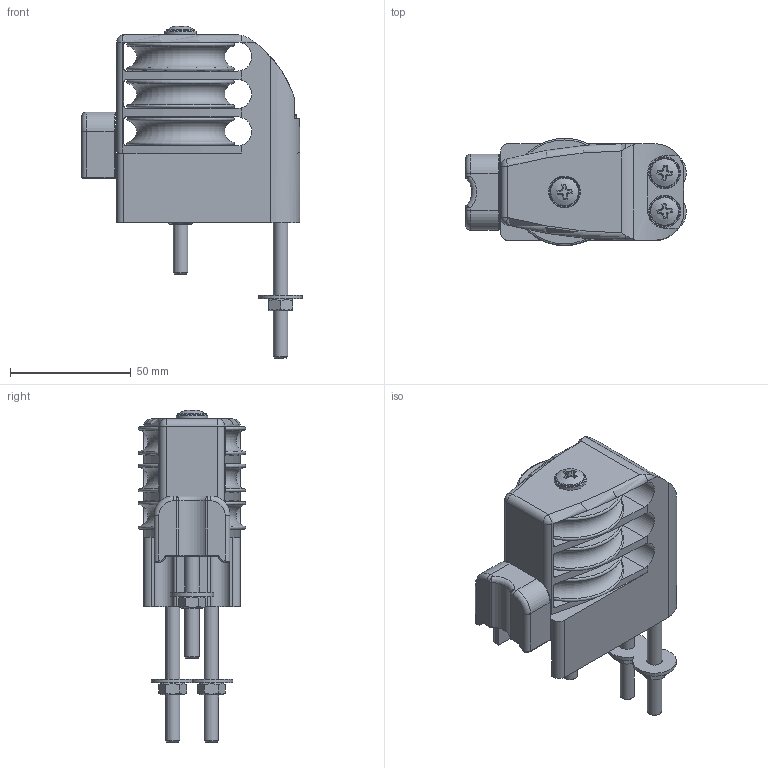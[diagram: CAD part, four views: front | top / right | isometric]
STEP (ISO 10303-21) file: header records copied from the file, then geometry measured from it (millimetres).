
FILE_DESCRIPTION(/* description */ (''),/* implementation_level */ '2;1');
FILE_NAME(/* name */ '\\SERVER2K12\Disegni CAD\Cad Library\3D - STP\Cars\4Race\4276.stp',/* time_stamp */ '2018-10-05T11:10:25+02:00',/* author */ ('francesca'),/* organization */ (''),/* preprocessor_version */ 'ST-DEVELOPER v16.5',/* originating_system */ 'Autodesk Inventor 2017',/* authorisation */ '');
FILE_SCHEMA (('AUTOMOTIVE_DESIGN { 1 0 10303 214 3 1 1 }'));
Length unit declared in the file: millimetre
Products named in the file (1): 18042610
Bounding box: 91.48 x 44.5 x 137.69 mm (x, y, z)
Volume: 155422.8 mm3; surface area: 60802.6 mm2
Topology: 1 solids, 4 shells, 455 faces, 1106 edges, 760 vertices
Faces by surface type: sphere 151, plane 139, cylinder 99, cone 36, torus 24, bspline 6
Full cylindrical faces by diameter (mm): 6 x9, 6.2 x12, 6.4 x3, 6.5 x3, 10 x6, 12 x3, 13.2 x3, 18 x1
Entity records: 11821 total; most frequent: CARTESIAN_POINT 2509, DIRECTION 2027, ORIENTED_EDGE 1584, AXIS2_PLACEMENT_3D 885, EDGE_CURVE 792, EDGE_LOOP 731, VERTEX_POINT 601, FACE_OUTER_BOUND 455
